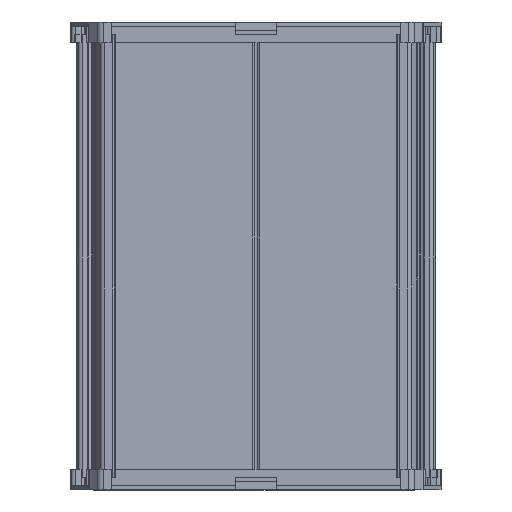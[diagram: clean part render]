
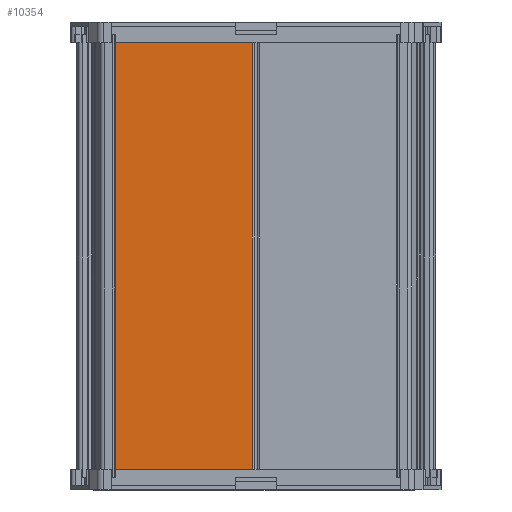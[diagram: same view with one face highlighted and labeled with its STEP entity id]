
A CAD part, top view. The second image highlights one B-rep face of the part: STEP entity #10354.
In plain terms, the highlighted planar face has unit normal (0, 0, 1) as drawn and (0, 1, 0) by its records, which use the part's own axes.
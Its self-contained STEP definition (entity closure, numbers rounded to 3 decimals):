
#788=FACE_OUTER_BOUND('',#1326,.T.);
#1326=EDGE_LOOP('',(#6923,#6924,#6925,#6926));
#1940=LINE('',#15342,#3068);
#1941=LINE('',#15344,#3069);
#1942=LINE('',#15346,#3070);
#1943=LINE('',#15347,#3071);
#3068=VECTOR('',#12219,1.);
#3069=VECTOR('',#12220,1.);
#3070=VECTOR('',#12221,1.);
#3071=VECTOR('',#12222,1.);
#4217=VERTEX_POINT('',#15340);
#4218=VERTEX_POINT('',#15341);
#4219=VERTEX_POINT('',#15343);
#4220=VERTEX_POINT('',#15345);
#5306=EDGE_CURVE('',#4217,#4218,#1940,.T.);
#5307=EDGE_CURVE('',#4218,#4219,#1941,.T.);
#5308=EDGE_CURVE('',#4220,#4219,#1942,.T.);
#5309=EDGE_CURVE('',#4217,#4220,#1943,.T.);
#6923=ORIENTED_EDGE('',*,*,#5306,.T.);
#6924=ORIENTED_EDGE('',*,*,#5307,.T.);
#6925=ORIENTED_EDGE('',*,*,#5308,.F.);
#6926=ORIENTED_EDGE('',*,*,#5309,.F.);
#9993=PLANE('',#11067);
#10354=ADVANCED_FACE('',(#788),#9993,.F.);
#11067=AXIS2_PLACEMENT_3D('',#15339,#12217,#12218);
#12217=DIRECTION('center_axis',(0.,-1.,0.));
#12218=DIRECTION('ref_axis',(-1.,0.,0.));
#12219=DIRECTION('',(-1.,0.,0.));
#12220=DIRECTION('',(0.,0.,1.));
#12221=DIRECTION('',(-1.,0.,0.));
#12222=DIRECTION('',(0.,0.,1.));
#15339=CARTESIAN_POINT('Origin',(-0.866,21.5,-10.));
#15340=CARTESIAN_POINT('',(-0.866,21.5,-31.75));
#15341=CARTESIAN_POINT('',(-36.444,21.5,-31.75));
#15342=CARTESIAN_POINT('',(0.,21.5,-31.75));
#15343=CARTESIAN_POINT('',(-36.444,21.5,75.25));
#15344=CARTESIAN_POINT('',(-36.444,21.5,0.));
#15345=CARTESIAN_POINT('',(-0.866,21.5,75.25));
#15346=CARTESIAN_POINT('',(0.,21.5,75.25));
#15347=CARTESIAN_POINT('',(-0.866,21.5,-10.));
